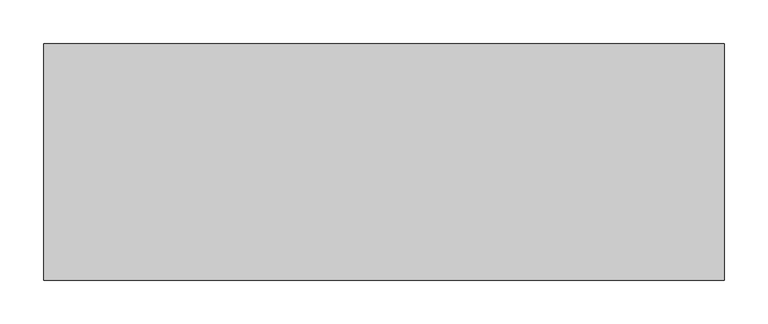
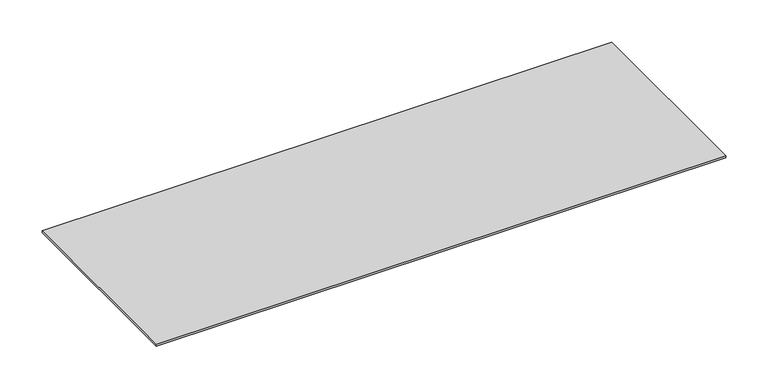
"""IFC4 building model written with IfcOpenShell, lengths in millimetres: proxy geometry, Electrical_Installation_Hager_Blank-Cover-BKA : Electrical_Installation_Hager_Blank-Cover-BKA."""

import ifcopenshell
import ifcopenshell.guid

model = None  # the IFC model being written
_history = None  # IfcOwnerHistory: only IFC2X3 demands one
_inside = {}  # id of a spatial element -> (the spatial element, [elements in it])
_under = {}  # id of a project, library or spatial element -> (it, [spatial elements below it])
_declared = {}  # id of a project -> (the project, [libraries it declares])
_typed = {}  # id of a type object -> (the type object, [elements of that type])
_made_of = {}  # id of a material, layer set ... -> (it, [elements and type objects made of it])


def new_model(schema):
    """Start an empty IFC model of exactly this schema.

    Asked for "IFC4X3", IfcOpenShell would pick the latest addendum, in which some entities
    have other attributes; the version numbers below select the first issue.
    IFC2X3 requires an IfcOwnerHistory on every rooted entity: one is made here for all.
    """
    global model, _history
    if schema == "IFC4X3":
        model = ifcopenshell.file(schema_version=(4, 3, 0, 0))
    else:
        model = ifcopenshell.file(schema=schema)
    _inside.clear()
    _under.clear()
    _declared.clear()
    _typed.clear()
    _made_of.clear()
    _history = None
    if model.schema == "IFC2X3":
        org = make("IfcOrganization", Name="unknown")
        user = make(
            "IfcPersonAndOrganization",
            ThePerson=make("IfcPerson", FamilyName="unknown"),
            TheOrganization=org,
        )
        app = make(
            "IfcApplication",
            ApplicationDeveloper=org,
            Version="unknown",
            ApplicationFullName="unknown",
            ApplicationIdentifier="unknown",
        )
        _history = make(
            "IfcOwnerHistory",
            OwningUser=user,
            OwningApplication=app,
            ChangeAction="ADDED",
            CreationDate=0,
        )
    return model


def make(cls, **values):
    """One entity of the class cls with the attributes given. An attribute that is None is left unset."""
    return model.create_entity(
        cls, **{name: value for name, value in values.items() if value is not None}
    )


def rooted(cls, **values):
    """An entity with a GlobalId (a new one), such as an element, a storey or a relation."""
    return make(cls, GlobalId=ifcopenshell.guid.new(), OwnerHistory=_history, **values)


def si_unit(unit_type, name, prefix=None):
    """IfcSIUnit, for example si_unit("LENGTHUNIT", "METRE", prefix="MILLI")."""
    return make("IfcSIUnit", UnitType=unit_type, Prefix=prefix, Name=name)


def assignment(units):
    """IfcUnitAssignment: the units of a project."""
    return None if units is None else make("IfcUnitAssignment", Units=units)


def point(xyz):
    """IfcCartesianPoint."""
    return None if xyz is None else make("IfcCartesianPoint", Coordinates=xyz)


def direction(xyz):
    """IfcDirection."""
    return None if xyz is None else make("IfcDirection", DirectionRatios=xyz)


def frame(location, z_axis=None, x_axis=None):
    """IfcAxis2Placement3D, a coordinate frame: its origin and axes. An axis left out is left unset."""
    return make(
        "IfcAxis2Placement3D",
        Location=point(location),
        Axis=direction(z_axis),
        RefDirection=direction(x_axis),
    )


def origin():
    """The frame at (0, 0, 0) with its axes left unset."""
    return frame((0.0, 0.0, 0.0))


def place(relative_to, where):
    """IfcLocalPlacement: puts the frame where relative to a parent placement (None: the world)."""
    return make(
        "IfcLocalPlacement", PlacementRelTo=relative_to, RelativePlacement=where
    )


def context(
    kind, dimensions, precision=None, world=None, true_north=None, identifier=None
):
    """IfcGeometricRepresentationContext, for example the 3D "Model" context."""
    return make(
        "IfcGeometricRepresentationContext",
        ContextIdentifier=identifier,
        ContextType=kind,
        CoordinateSpaceDimension=dimensions,
        Precision=precision,
        WorldCoordinateSystem=world,
        TrueNorth=true_north,
    )


def project(units=None, contexts=None):
    """IfcProject with its units and contexts."""
    return rooted(
        "IfcProject",
        Name="project",
        RepresentationContexts=contexts,
        UnitsInContext=assignment(units),
    )


def spatial(cls, under=None, at=None, **own):
    """A site, building, storey or space (cls), placed at a placement, below another one or the project."""
    s = rooted(cls, ObjectPlacement=at, **own)
    if under is not None:
        _under.setdefault(under.id(), (under, []))[1].append(s)
    return s


def polyline(points):
    """IfcPolyline through the points."""
    return make("IfcPolyline", Points=[point(p) for p in points])


def outline(outer, holes=None, kind="AREA"):
    """IfcArbitraryClosedProfileDef: a profile drawn as a closed curve; with holes, ...WithVoids."""
    if holes is None:
        return make("IfcArbitraryClosedProfileDef", ProfileType=kind, OuterCurve=outer)
    return make(
        "IfcArbitraryProfileDefWithVoids",
        ProfileType=kind,
        OuterCurve=outer,
        InnerCurves=holes,
    )


def extrude(swept, where, along, depth):
    """IfcExtrudedAreaSolid: the profile swept, set in the frame where, extruded along a direction by depth."""
    return make(
        "IfcExtrudedAreaSolid",
        SweptArea=swept,
        Position=where,
        ExtrudedDirection=direction(along),
        Depth=depth,
    )


def shape(context_of_items, identifier, shape_type, items):
    """IfcShapeRepresentation: the items that make up one representation, for example the "Body"."""
    return make(
        "IfcShapeRepresentation",
        ContextOfItems=context_of_items,
        RepresentationIdentifier=identifier,
        RepresentationType=shape_type,
        Items=items,
    )


def source(mapping_origin, context_of_items, identifier, shape_type, items):
    """IfcRepresentationMap: a shape defined once, which mapped items show again and again."""
    return make(
        "IfcRepresentationMap",
        MappingOrigin=mapping_origin,
        MappedRepresentation=shape(context_of_items, identifier, shape_type, items),
    )


def transform(
    local_origin,
    x_axis=None,
    y_axis=None,
    z_axis=None,
    scale=None,
    scale2=None,
    scale3=None,
    uniform=True,
):
    """IfcCartesianTransformationOperator3D, or its non-uniform kind. x_axis, y_axis, z_axis: its Axis1, 2, 3."""
    if uniform:
        return make(
            "IfcCartesianTransformationOperator3D",
            Axis1=direction(x_axis),
            Axis2=direction(y_axis),
            LocalOrigin=point(local_origin),
            Scale=scale,
            Axis3=direction(z_axis),
        )
    return make(
        "IfcCartesianTransformationOperator3DnonUniform",
        Axis1=direction(x_axis),
        Axis2=direction(y_axis),
        LocalOrigin=point(local_origin),
        Scale=scale,
        Axis3=direction(z_axis),
        Scale2=scale2,
        Scale3=scale3,
    )


def mapped(mapping_source, mapping_target):
    """IfcMappedItem: shows the shape of a source again, moved by a transform."""
    return make(
        "IfcMappedItem", MappingSource=mapping_source, MappingTarget=mapping_target
    )


def made_of(thing, what):
    """Note that an element or type object is made of a material, layer set ...; save() writes the relation."""
    if what is not None:
        _made_of.setdefault(what.id(), (what, []))[1].append(thing)
    return thing


def element(
    cls,
    number,
    at=None,
    inside=None,
    cuts=None,
    type_object=None,
    material=None,
    context=None,
    identifier="Body",
    shape_type=None,
    held_by="IfcProductDefinitionShape",
    body=None,
    shapes=None,
    **own,
):
    """One element of the class cls, such as IfcWall. Its Tag is "e" and its number.

    at: its placement. inside: the storey or other place that contains it. cuts: it is an
    opening in that element (IfcRelVoidsElement). A single representation is given by context,
    identifier, shape_type and body (its items); several are given by shapes. held_by: the class
    of the entity that holds the representations. save() writes the other relations.
    """
    e = rooted(cls, Tag="e%d" % number, ObjectPlacement=at, **own)
    if body is not None:
        shapes = [shape(context, identifier, shape_type, body)]
    if shapes is not None:
        e.Representation = make(held_by, Representations=shapes)
    if inside is not None:
        _inside.setdefault(inside.id(), (inside, []))[1].append(e)
    if cuts is not None:
        rooted(
            "IfcRelVoidsElement", RelatingBuildingElement=cuts, RelatedOpeningElement=e
        )
    if type_object is not None:
        _typed.setdefault(type_object.id(), (type_object, []))[1].append(e)
    return made_of(e, material)


def aggregate(whole, parts):
    """IfcRelAggregates: a whole, such as a stair, and the parts it consists of."""
    return rooted("IfcRelAggregates", RelatingObject=whole, RelatedObjects=parts)


def save(model, path):
    """Write the relations noted so far, then the file.

    IfcRelAggregates (storeys below a building ...), IfcRelContainedInSpatialStructure (elements
    in a storey), IfcRelDefinesByType, IfcRelAssociatesMaterial and IfcRelDeclares: one each for
    every whole, place, type object, material and project.
    """
    for whole, parts in _under.values():
        aggregate(whole, parts)
    for where, things in _inside.values():
        rooted(
            "IfcRelContainedInSpatialStructure",
            RelatedElements=things,
            RelatingStructure=where,
        )
    for kind, things in _typed.values():
        rooted("IfcRelDefinesByType", RelatedObjects=things, RelatingType=kind)
    for what, things in _made_of.values():
        rooted("IfcRelAssociatesMaterial", RelatedObjects=things, RelatingMaterial=what)
    for by, libraries in _declared.values():
        rooted("IfcRelDeclares", RelatingContext=by, RelatedDefinitions=libraries)
    model.write(path)


def electrical_fixtures_960f5718(model_context):
    return source(origin(), model_context, "Body", "SweptSolid", [
        extrude(outline(polyline([(776.1512254, 134.75), (776.1512254, -134.75), (0.0, -134.75), (0.0, 134.75), (776.1512254, 134.75)])), frame((0.0, 0.0, 10.0), z_axis=(0.0, 0.0, 1.0), x_axis=(1.0, 0.0, 0.0)), (0.0, 0.0, 1.0), 3.0),
    ])


if __name__ == "__main__":
    model = new_model("IFC4")
    model_context = context("Model", 3, world=origin())
    ifc_project = project(units=[si_unit("LENGTHUNIT", "METRE", prefix="MILLI")], contexts=[model_context])
    site = spatial("IfcSite", under=ifc_project)
    building = spatial("IfcBuilding", under=site)
    placement = place(None, origin())
    electrical_fixtures_shape = electrical_fixtures_960f5718(model_context)
    element("IfcBuildingElementProxy", 1, Name="Electrical_Installation_Hager_Blank-Cover-BKA : Electrical_Installation_Hager_Blank-Cover-BKA", ObjectType="Electrical_Installation_Hager_Blank-Cover-BKA : Electrical_Installation_Hager_Blank-Cover-BKA", at=placement, inside=building, context=model_context, shape_type="MappedRepresentation", body=[
        mapped(electrical_fixtures_shape, transform((0.0, 0.0, 0.0), x_axis=(1.0, 0.0, 0.0), y_axis=(0.0, 1.0, 0.0), z_axis=(0.0, 0.0, 1.0))),
    ])
    save(model, "model.ifc")
